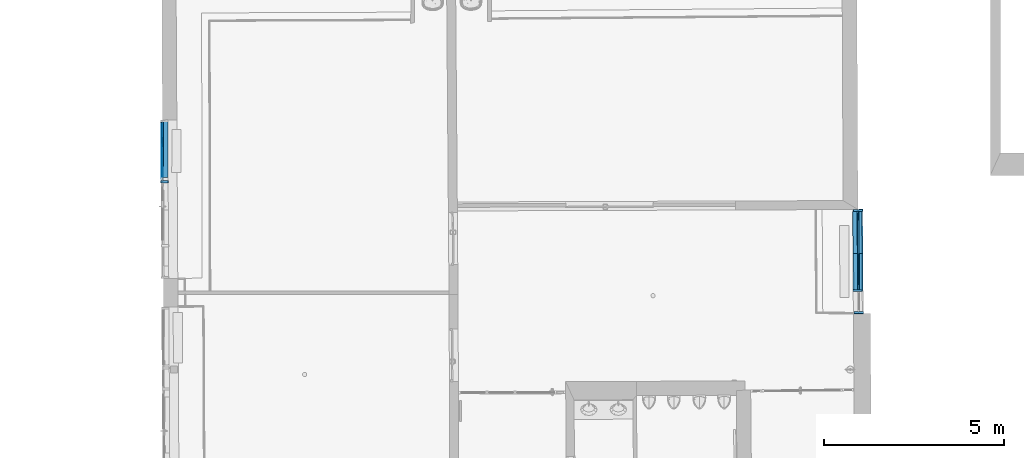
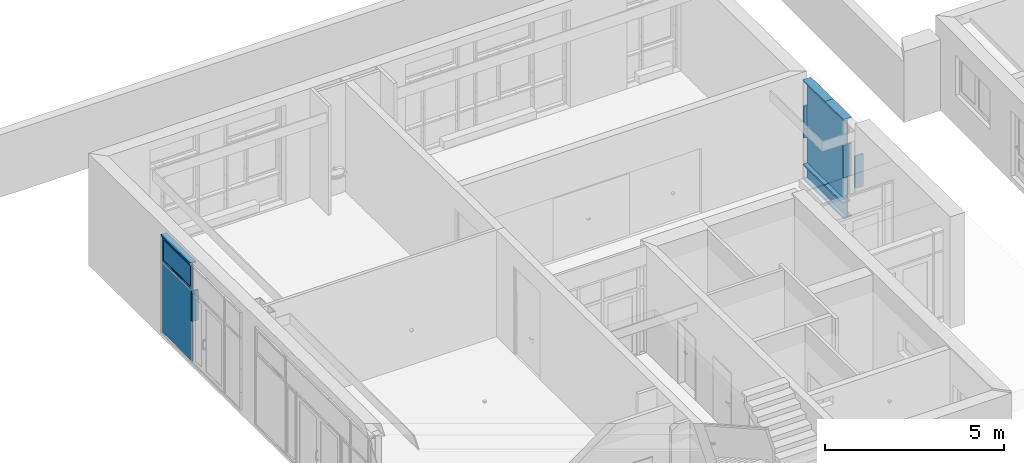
# One storey, part 128 of 196: 16 building element parts, 2 elements without a shape of their own.
"""IFC2X3 building model written with IfcOpenShell, lengths in metres."""

import ifcopenshell
import ifcopenshell.guid

model = None  # the IFC model being written
_history = None  # IfcOwnerHistory: only IFC2X3 demands one
_inside = {}  # id of a spatial element -> (the spatial element, [elements in it])
_under = {}  # id of a project, library or spatial element -> (it, [spatial elements below it])
_declared = {}  # id of a project -> (the project, [libraries it declares])
_typed = {}  # id of a type object -> (the type object, [elements of that type])
_made_of = {}  # id of a material, layer set ... -> (it, [elements and type objects made of it])


def new_model(schema):
    """Start an empty IFC model of exactly this schema.

    Asked for "IFC4X3", IfcOpenShell would pick the latest addendum, in which some entities
    have other attributes; the version numbers below select the first issue.
    IFC2X3 requires an IfcOwnerHistory on every rooted entity: one is made here for all.
    """
    global model, _history
    if schema == "IFC4X3":
        model = ifcopenshell.file(schema_version=(4, 3, 0, 0))
    else:
        model = ifcopenshell.file(schema=schema)
    _inside.clear()
    _under.clear()
    _declared.clear()
    _typed.clear()
    _made_of.clear()
    _history = None
    if model.schema == "IFC2X3":
        org = make("IfcOrganization", Name="unknown")
        user = make(
            "IfcPersonAndOrganization",
            ThePerson=make("IfcPerson", FamilyName="unknown"),
            TheOrganization=org,
        )
        app = make(
            "IfcApplication",
            ApplicationDeveloper=org,
            Version="unknown",
            ApplicationFullName="unknown",
            ApplicationIdentifier="unknown",
        )
        _history = make(
            "IfcOwnerHistory",
            OwningUser=user,
            OwningApplication=app,
            ChangeAction="ADDED",
            CreationDate=0,
        )
    return model


def make(cls, **values):
    """One entity of the class cls with the attributes given. An attribute that is None is left unset."""
    return model.create_entity(
        cls, **{name: value for name, value in values.items() if value is not None}
    )


def entity(cls, *values):
    """Any entity or typed value of the class cls, its attributes in the order of the schema. None: left unset."""
    e = model.create_entity(cls)
    for i, value in enumerate(values):
        if value is not None:
            e[i] = value
    return e


def rooted(cls, **values):
    """An entity with a GlobalId (a new one), such as an element, a storey or a relation."""
    return make(cls, GlobalId=ifcopenshell.guid.new(), OwnerHistory=_history, **values)


def si_unit(unit_type, name, prefix=None):
    """IfcSIUnit, for example si_unit("LENGTHUNIT", "METRE", prefix="MILLI")."""
    return make("IfcSIUnit", UnitType=unit_type, Prefix=prefix, Name=name)


def converted_unit(unit_type, name, factor, base, dimensions=None, offset=None):
    """IfcConversionBasedUnit, such as the inch: factor (a typed value) times the base unit."""
    return make(
        "IfcConversionBasedUnit"
        if offset is None
        else "IfcConversionBasedUnitWithOffset",
        ConversionOffset=offset,
        Dimensions=None
        if dimensions is None
        else entity("IfcDimensionalExponents", *dimensions),
        UnitType=unit_type,
        Name=name,
        ConversionFactor=make(
            "IfcMeasureWithUnit", ValueComponent=factor, UnitComponent=base
        ),
    )


def derived_unit(unit_type, elements):
    """IfcDerivedUnit: a product of units, each with its exponent."""
    return make(
        "IfcDerivedUnit",
        Elements=[
            make("IfcDerivedUnitElement", Unit=unit, Exponent=power)
            for unit, power in elements
        ],
        UnitType=unit_type,
    )


def money_unit(currency):
    """IfcMonetaryUnit."""
    return make("IfcMonetaryUnit", Currency=currency)


def assignment(units):
    """IfcUnitAssignment: the units of a project."""
    return None if units is None else make("IfcUnitAssignment", Units=units)


def point(xyz):
    """IfcCartesianPoint."""
    return None if xyz is None else make("IfcCartesianPoint", Coordinates=xyz)


def direction(xyz):
    """IfcDirection."""
    return None if xyz is None else make("IfcDirection", DirectionRatios=xyz)


def frame(location, z_axis=None, x_axis=None):
    """IfcAxis2Placement3D, a coordinate frame: its origin and axes. An axis left out is left unset."""
    return make(
        "IfcAxis2Placement3D",
        Location=point(location),
        Axis=direction(z_axis),
        RefDirection=direction(x_axis),
    )


def origin_with_axes():
    """The frame at (0, 0, 0) with the z axis (0, 0, 1) and the x axis (1, 0, 0) written out."""
    return frame((0.0, 0.0, 0.0), z_axis=(0.0, 0.0, 1.0), x_axis=(1.0, 0.0, 0.0))


def place(relative_to, where):
    """IfcLocalPlacement: puts the frame where relative to a parent placement (None: the world)."""
    return make(
        "IfcLocalPlacement", PlacementRelTo=relative_to, RelativePlacement=where
    )


def context(
    kind, dimensions, precision=None, world=None, true_north=None, identifier=None
):
    """IfcGeometricRepresentationContext, for example the 3D "Model" context."""
    return make(
        "IfcGeometricRepresentationContext",
        ContextIdentifier=identifier,
        ContextType=kind,
        CoordinateSpaceDimension=dimensions,
        Precision=precision,
        WorldCoordinateSystem=world,
        TrueNorth=true_north,
    )


def subcontext(parent, identifier, kind, view, scale=None):
    """IfcGeometricRepresentationSubContext, for example "Body" below "Model"."""
    return make(
        "IfcGeometricRepresentationSubContext",
        ContextIdentifier=identifier,
        ContextType=kind,
        ParentContext=parent,
        TargetScale=scale,
        TargetView=view,
    )


def project(units=None, contexts=None):
    """IfcProject with its units and contexts."""
    return rooted(
        "IfcProject",
        Name="project",
        RepresentationContexts=contexts,
        UnitsInContext=assignment(units),
    )


def spatial(cls, under=None, at=None, **own):
    """A site, building, storey or space (cls), placed at a placement, below another one or the project."""
    s = rooted(cls, ObjectPlacement=at, **own)
    if under is not None:
        _under.setdefault(under.id(), (under, []))[1].append(s)
    return s


def faces_of(points, faces, orient=None, outer=None):
    """IfcFace entities. A face is a list of loops; a loop is a list of indices into points, from 0.

    orient and outer hold one flag for each loop. By default every Orientation is true, the
    first loop of a face is its IfcFaceOuterBound and the others are IfcFaceBound.
    """
    made = []
    for i, loops in enumerate(faces):
        bounds = []
        for j, loop in enumerate(loops):
            is_outer = j == 0 if outer is None else outer[i][j]
            bounds.append(
                make(
                    "IfcFaceOuterBound" if is_outer else "IfcFaceBound",
                    Bound=make("IfcPolyLoop", Polygon=[points[k] for k in loop]),
                    Orientation=True if orient is None else orient[i][j],
                )
            )
        made.append(make("IfcFace", Bounds=bounds))
    return made


def faceted_brep(points, faces, orient=None, outer=None, voids=None):
    """IfcFacetedBrep: a solid bounded by flat faces; with voids (closed shells), ...WithVoids."""
    shared = [point(p) for p in points]
    hull = make("IfcClosedShell", CfsFaces=faces_of(shared, faces, orient, outer))
    if voids is None:
        return make("IfcFacetedBrep", Outer=hull)
    return make(
        "IfcFacetedBrepWithVoids",
        Outer=hull,
        Voids=[
            make(cls, CfsFaces=faces_of(shared, fs, o, b)) for cls, fs, o, b in voids
        ],
    )


def shape(context_of_items, identifier, shape_type, items):
    """IfcShapeRepresentation: the items that make up one representation, for example the "Body"."""
    return make(
        "IfcShapeRepresentation",
        ContextOfItems=context_of_items,
        RepresentationIdentifier=identifier,
        RepresentationType=shape_type,
        Items=items,
    )


def material(Name=None, Category=None):
    """IfcMaterial."""
    return make("IfcMaterial", Name=Name, Category=Category)


def made_of(thing, what):
    """Note that an element or type object is made of a material, layer set ...; save() writes the relation."""
    if what is not None:
        _made_of.setdefault(what.id(), (what, []))[1].append(thing)
    return thing


def type_object(cls, material=None, **own):
    """A type object (cls), such as IfcWallType, which elements share."""
    return made_of(rooted(cls, **own), material)


def element(
    cls,
    number,
    at=None,
    inside=None,
    cuts=None,
    type_object=None,
    material=None,
    context=None,
    identifier="Body",
    shape_type=None,
    held_by="IfcProductDefinitionShape",
    body=None,
    shapes=None,
    **own,
):
    """One element of the class cls, such as IfcWall. Its Tag is "e" and its number.

    at: its placement. inside: the storey or other place that contains it. cuts: it is an
    opening in that element (IfcRelVoidsElement). A single representation is given by context,
    identifier, shape_type and body (its items); several are given by shapes. held_by: the class
    of the entity that holds the representations. save() writes the other relations.
    """
    e = rooted(cls, Tag="e%d" % number, ObjectPlacement=at, **own)
    if body is not None:
        shapes = [shape(context, identifier, shape_type, body)]
    if shapes is not None:
        e.Representation = make(held_by, Representations=shapes)
    if inside is not None:
        _inside.setdefault(inside.id(), (inside, []))[1].append(e)
    if cuts is not None:
        rooted(
            "IfcRelVoidsElement", RelatingBuildingElement=cuts, RelatedOpeningElement=e
        )
    if type_object is not None:
        _typed.setdefault(type_object.id(), (type_object, []))[1].append(e)
    return made_of(e, material)


def aggregate(whole, parts):
    """IfcRelAggregates: a whole, such as a stair, and the parts it consists of."""
    return rooted("IfcRelAggregates", RelatingObject=whole, RelatedObjects=parts)


def save(model, path):
    """Write the relations noted so far, then the file.

    IfcRelAggregates (storeys below a building ...), IfcRelContainedInSpatialStructure (elements
    in a storey), IfcRelDefinesByType, IfcRelAssociatesMaterial and IfcRelDeclares: one each for
    every whole, place, type object, material and project.
    """
    for whole, parts in _under.values():
        aggregate(whole, parts)
    for where, things in _inside.values():
        rooted(
            "IfcRelContainedInSpatialStructure",
            RelatedElements=things,
            RelatingStructure=where,
        )
    for kind, things in _typed.values():
        rooted("IfcRelDefinesByType", RelatedObjects=things, RelatingType=kind)
    for what, things in _made_of.values():
        rooted("IfcRelAssociatesMaterial", RelatedObjects=things, RelatingMaterial=what)
    for by, libraries in _declared.values():
        rooted("IfcRelDeclares", RelatingContext=by, RelatedDefinitions=libraries)
    model.write(path)


model = new_model("IFC2X3")

# Units and contexts
model_context = context("Model", 3, precision=1e-05, world=origin_with_axes(), true_north=direction((0.0, 1.0)))
body_context = subcontext(model_context, "Body", "Model", "MODEL_VIEW")
ifc_project = project(units=[si_unit("LENGTHUNIT", "METRE"), si_unit("AREAUNIT", "SQUARE_METRE"), si_unit("VOLUMEUNIT", "CUBIC_METRE"), converted_unit("PLANEANGLEUNIT", "DEGREE", entity("IfcPlaneAngleMeasure", 0.0174532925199), si_unit("PLANEANGLEUNIT", "RADIAN"), dimensions=[0, 0, 0, 0, 0, 0, 0]), money_unit("EUR"), converted_unit("TIMEUNIT", "Year", entity("IfcTimeMeasure", 31556926.0), si_unit("TIMEUNIT", "SECOND"), dimensions=[0, 0, 1, 0, 0, 0, 0]), si_unit("MASSUNIT", "GRAM", prefix="KILO"), si_unit("THERMODYNAMICTEMPERATUREUNIT", "DEGREE_CELSIUS"), si_unit("LUMINOUSINTENSITYUNIT", "LUMEN"), si_unit("ENERGYUNIT", "JOULE", prefix="MEGA"), derived_unit("THERMALCONDUCTANCEUNIT", [(si_unit("POWERUNIT", "WATT"), 1), (si_unit("LENGTHUNIT", "METRE"), -1), (si_unit("THERMODYNAMICTEMPERATUREUNIT", "KELVIN"), -1)]), derived_unit("SPECIFICHEATCAPACITYUNIT", [(si_unit("ENERGYUNIT", "JOULE"), 1), (si_unit("MASSUNIT", "GRAM", prefix="KILO"), -1), (si_unit("THERMODYNAMICTEMPERATUREUNIT", "KELVIN"), -1)]), derived_unit("MASSDENSITYUNIT", [(si_unit("MASSUNIT", "GRAM", prefix="KILO"), 1), (si_unit("VOLUMEUNIT", "CUBIC_METRE"), -1)])], contexts=[model_context])

# Site, building, storey
site_placement = place(None, origin_with_axes())
site = spatial("IfcSite", under=ifc_project, at=site_placement, Name="Gelände", CompositionType="ELEMENT")
building_placement = place(site_placement, origin_with_axes())
building = spatial("IfcBuilding", under=site, at=building_placement, Name="Gebäude", CompositionType="ELEMENT")
storey_placement = place(building_placement, frame((0.0, 0.0, -3.0), z_axis=(0.0, 0.0, 1.0), x_axis=(1.0, 0.0, 0.0)))
storey = spatial("IfcBuildingStorey", under=building, at=storey_placement, Name="KELLERGESCHOSS", CompositionType="ELEMENT", Elevation=-3.0)

# Proxy, building element parts
building_element_proxy_type = type_object("IfcBuildingElementProxyType", Name="Fassadentyp", PredefinedType="NOTDEFINED")
proxy_1_placement = place(storey_placement, frame((-34.913387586, 47.2552574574, 0.421025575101), z_axis=(0.0, 0.0, 1.0), x_axis=(1.0, 0.0, 0.0)))
proxy_1 = element("IfcBuildingElementProxy", 1, at=proxy_1_placement, inside=storey, type_object=building_element_proxy_type, Name="Fassade-002")
ifc_material_1 = material(Name="45_Glas, Normalglas")
building_element_part_1_placement = place(proxy_1_placement, origin_with_axes())
building_element_part_1 = element("IfcBuildingElementPart", 2, at=building_element_part_1_placement, material=ifc_material_1, Name="45_Glas, Normalglas", context=body_context, shape_type="Brep", body=[
    faceted_brep([(0.0148477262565, 0.87856362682, 2.44764336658), (0.0142398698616, 0.982208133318, 2.44764336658), (-0.0257594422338, 0.981973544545, 2.44764336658), (-0.025151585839, 0.878329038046, 2.44764336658), (0.0148477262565, 0.87856362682, 1.42000002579), (0.0148477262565, 0.87856362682, 0.62000002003), (0.0148477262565, 0.87856362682, 0.0350000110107), (0.0142398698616, 0.982208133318, 0.0350000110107), (0.00504361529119, 2.55024504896, 0.0350000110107), (0.00504361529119, 2.55024504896, 0.62000002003), (0.00504361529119, 2.55024504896, 1.42000002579), (0.00504361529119, 2.55024504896, 2.44764336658), (-0.0349556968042, 2.55001046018, 2.44764336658), (-0.0349556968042, 2.55001046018, 1.42000002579), (-0.0349556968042, 2.55001046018, 0.62000002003), (-0.0349556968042, 2.55001046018, 0.0350000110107), (-0.0257594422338, 0.981973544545, 0.0350000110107), (-0.025151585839, 0.878329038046, 0.0350000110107), (-0.025151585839, 0.878329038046, 0.62000002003), (-0.025151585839, 0.878329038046, 1.42000002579)], [[[0, 1, 2, 3]], [[0, 4, 5, 6, 7, 8, 9, 10, 11, 1]], [[1, 11, 12, 2]], [[3, 2, 12, 13, 14, 15, 16, 17, 18, 19]], [[4, 0, 3, 19]], [[5, 4, 19, 18]], [[6, 5, 18, 17]], [[7, 6, 17, 16]], [[8, 7, 16, 15]], [[9, 8, 15, 14]], [[10, 9, 14, 13]], [[11, 10, 13, 12]]]),
])
ifc_material_2 = material(Name="53_Metall, Aluminium")
building_element_part_2_placement = place(proxy_1_placement, origin_with_axes())
building_element_part_2 = element("IfcBuildingElementPart", 3, at=building_element_part_2_placement, material=ifc_material_2, Name="53_Metall, Aluminium", context=body_context, shape_type="Brep", body=[
    faceted_brep([(-0.0448675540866, 2.53495207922, 2.48264338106), (-0.0352393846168, 0.893270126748, 2.48264338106), (-0.0402392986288, 0.893240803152, 2.48264338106), (-0.0498674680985, 2.53492275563, 2.48264338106), (-0.0446036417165, 2.48995285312, 2.52764338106), (-0.0355032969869, 0.938269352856, 2.52764338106), (-0.0405032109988, 0.938240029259, 2.52764338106), (-0.0496035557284, 2.48992352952, 2.52764338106)], [[[0, 1, 2, 3]], [[0, 4, 5, 1]], [[1, 5, 6, 2]], [[3, 2, 6, 7]], [[4, 0, 3, 7]], [[5, 4, 7, 6]]]),
    faceted_brep([(-0.0352393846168, 0.893270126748, 2.48264338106), (-0.0352393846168, 0.893270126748, 3.29999993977), (-0.0402392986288, 0.893240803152, 3.29999993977), (-0.0402392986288, 0.893240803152, 2.48264338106), (-0.0355032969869, 0.938269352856, 2.52764338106), (-0.0355032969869, 0.938269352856, 3.25499993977), (-0.0405032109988, 0.938240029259, 3.25499993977), (-0.0405032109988, 0.938240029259, 2.52764338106)], [[[0, 1, 2, 3]], [[0, 4, 5, 1]], [[1, 5, 6, 2]], [[3, 2, 6, 7]], [[4, 0, 3, 7]], [[5, 4, 7, 6]]]),
    faceted_brep([(-0.0448675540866, 2.53495207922, 3.29999993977), (-0.0446036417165, 2.48995285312, 3.25499993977), (-0.0496035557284, 2.48992352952, 3.25499993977), (-0.0498674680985, 2.53492275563, 3.29999993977), (-0.0352393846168, 0.893270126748, 3.29999993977), (-0.0355032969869, 0.938269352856, 3.25499993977), (-0.0405032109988, 0.938240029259, 3.25499993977), (-0.0402392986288, 0.893240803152, 3.29999993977)], [[[0, 1, 2, 3]], [[0, 4, 5, 1]], [[1, 5, 6, 2]], [[3, 2, 6, 7]], [[4, 0, 3, 7]], [[5, 4, 7, 6]]]),
    faceted_brep([(-0.0448675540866, 2.53495207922, 2.48264338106), (-0.0446036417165, 2.48995285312, 2.52764338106), (-0.0496035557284, 2.48992352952, 2.52764338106), (-0.0498674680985, 2.53492275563, 2.48264338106), (-0.0448675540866, 2.53495207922, 3.29999993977), (-0.0446036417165, 2.48995285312, 3.25499993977), (-0.0496035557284, 2.48992352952, 3.25499993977), (-0.0498674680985, 2.53492275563, 3.29999993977)], [[[0, 1, 2, 3]], [[0, 4, 5, 1]], [[1, 5, 6, 2]], [[3, 2, 6, 7]], [[4, 0, 3, 7]], [[5, 4, 7, 6]]]),
    faceted_brep([(0.00513158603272, 2.53524531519, 2.48264338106), (0.0147597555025, 0.893563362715, 2.48264338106), (-0.0352393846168, 0.893270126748, 2.48264338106), (-0.0448675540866, 2.53495207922, 2.48264338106), (0.00524888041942, 2.51524565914, 2.50264338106), (0.0146424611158, 0.913563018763, 2.50264338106), (-0.0353566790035, 0.913269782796, 2.50264338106), (-0.0447502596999, 2.51495242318, 2.50264338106)], [[[0, 1, 2, 3]], [[0, 4, 5, 1]], [[1, 5, 6, 2]], [[3, 2, 6, 7]], [[4, 0, 3, 7]], [[5, 4, 7, 6]]]),
    faceted_brep([(0.0147597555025, 0.893563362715, 2.48264338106), (0.0147597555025, 0.893563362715, 3.29999993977), (-0.0352393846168, 0.893270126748, 3.29999993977), (-0.0352393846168, 0.893270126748, 2.48264338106), (0.0146424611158, 0.913563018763, 2.50264338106), (0.0146424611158, 0.913563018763, 3.27999993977), (-0.0353566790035, 0.913269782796, 3.27999993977), (-0.0353566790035, 0.913269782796, 2.50264338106)], [[[0, 1, 2, 3]], [[0, 4, 5, 1]], [[1, 5, 6, 2]], [[3, 2, 6, 7]], [[4, 0, 3, 7]], [[5, 4, 7, 6]]]),
    faceted_brep([(0.00513158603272, 2.53524531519, 3.29999993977), (0.00524888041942, 2.51524565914, 3.27999993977), (-0.0447502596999, 2.51495242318, 3.27999993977), (-0.0448675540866, 2.53495207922, 3.29999993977), (0.0147597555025, 0.893563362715, 3.29999993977), (0.0146424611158, 0.913563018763, 3.27999993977), (-0.0353566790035, 0.913269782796, 3.27999993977), (-0.0352393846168, 0.893270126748, 3.29999993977)], [[[0, 1, 2, 3]], [[0, 4, 5, 1]], [[1, 5, 6, 2]], [[3, 2, 6, 7]], [[4, 0, 3, 7]], [[5, 4, 7, 6]]]),
    faceted_brep([(0.00513158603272, 2.53524531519, 2.48264338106), (0.00524888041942, 2.51524565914, 2.50264338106), (-0.0447502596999, 2.51495242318, 2.50264338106), (-0.0448675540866, 2.53495207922, 2.48264338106), (0.00513158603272, 2.53524531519, 3.29999993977), (0.00524888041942, 2.51524565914, 3.27999993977), (-0.0447502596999, 2.51495242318, 3.27999993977), (-0.0448675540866, 2.53495207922, 3.29999993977)], [[[0, 1, 2, 3]], [[0, 4, 5, 1]], [[1, 5, 6, 2]], [[3, 2, 6, 7]], [[4, 0, 3, 7]], [[5, 4, 7, 6]]]),
    faceted_brep([(0.0050436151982, 2.55024506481, 2.46764337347), (0.014847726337, 0.878563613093, 2.46764337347), (-0.0251515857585, 0.878329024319, 2.46764337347), (-0.0349556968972, 2.55001047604, 2.46764337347), (0.00513158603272, 2.53524531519, 2.48264338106), (0.0147597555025, 0.893563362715, 2.48264338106), (-0.025239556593, 0.893328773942, 2.48264338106), (-0.0348677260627, 2.53501072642, 2.48264338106)], [[[0, 1, 2, 3]], [[0, 4, 5, 1]], [[1, 5, 6, 2]], [[3, 2, 6, 7]], [[4, 0, 3, 7]], [[5, 4, 7, 6]]]),
    faceted_brep([(0.014847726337, 0.878563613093, 2.46764337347), (0.014847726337, 0.878563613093, 3.31499994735), (-0.0251515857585, 0.878329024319, 3.31499994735), (-0.0251515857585, 0.878329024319, 2.46764337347), (0.0147597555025, 0.893563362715, 2.48264338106), (0.0147597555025, 0.893563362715, 3.29999993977), (-0.025239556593, 0.893328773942, 3.29999993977), (-0.025239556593, 0.893328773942, 2.48264338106)], [[[0, 1, 2, 3]], [[0, 4, 5, 1]], [[1, 5, 6, 2]], [[3, 2, 6, 7]], [[4, 0, 3, 7]], [[5, 4, 7, 6]]]),
    faceted_brep([(0.014847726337, 0.878563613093, 3.31499994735), (0.0050436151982, 2.55024506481, 3.31499994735), (-0.0349556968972, 2.55001047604, 3.31499994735), (-0.0251515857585, 0.878329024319, 3.31499994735), (0.0147597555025, 0.893563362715, 3.29999993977), (0.00513158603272, 2.53524531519, 3.29999993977), (-0.0348677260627, 2.53501072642, 3.29999993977), (-0.025239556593, 0.893328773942, 3.29999993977)], [[[0, 1, 2, 3]], [[0, 4, 5, 1]], [[1, 5, 6, 2]], [[3, 2, 6, 7]], [[4, 0, 3, 7]], [[5, 4, 7, 6]]]),
    faceted_brep([(0.0050436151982, 2.55024506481, 3.31499994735), (0.0050436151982, 2.55024506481, 2.46764337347), (-0.0349556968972, 2.55001047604, 2.46764337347), (-0.0349556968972, 2.55001047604, 3.31499994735), (0.00513158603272, 2.53524531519, 3.29999993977), (0.00513158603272, 2.53524531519, 2.48264338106), (-0.0348677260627, 2.53501072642, 2.48264338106), (-0.0348677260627, 2.53501072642, 3.29999993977)], [[[0, 1, 2, 3]], [[0, 4, 5, 1]], [[1, 5, 6, 2]], [[3, 2, 6, 7]], [[4, 0, 3, 7]], [[5, 4, 7, 6]]]),
    faceted_brep([(-0.0444863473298, 2.46995319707, 2.54764338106), (0.0105127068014, 2.47027575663, 2.54764338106), (0.0105127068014, 2.47027575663, 3.23499993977), (-0.0444863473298, 2.46995319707, 3.23499993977), (-0.0447502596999, 2.51495242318, 2.50264338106), (0.0102487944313, 2.51527498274, 2.50264338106), (0.0102487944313, 2.51527498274, 3.27999993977), (-0.0447502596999, 2.51495242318, 3.27999993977)], [[[0, 1, 2, 3]], [[4, 5, 1, 0]], [[1, 5, 6, 2]], [[3, 2, 6, 7]], [[0, 3, 7, 4]], [[7, 6, 5, 4]]]),
    faceted_brep([(-0.0353566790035, 0.913269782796, 2.50264338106), (0.0196423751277, 0.913592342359, 2.50264338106), (0.0196423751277, 0.913592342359, 3.27999993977), (-0.0353566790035, 0.913269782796, 3.27999993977), (-0.0356205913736, 0.958269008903, 2.54764338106), (0.0193784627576, 0.958591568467, 2.54764338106), (0.0193784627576, 0.958591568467, 3.23499993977), (-0.0356205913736, 0.958269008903, 3.23499993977)], [[[0, 1, 2, 3]], [[4, 5, 1, 0]], [[1, 5, 6, 2]], [[3, 2, 6, 7]], [[0, 3, 7, 4]], [[7, 6, 5, 4]]]),
    faceted_brep([(-0.0353566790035, 0.913269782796, 2.50264338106), (0.0196423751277, 0.913592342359, 2.50264338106), (0.0193784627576, 0.958591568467, 2.54764338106), (-0.0356205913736, 0.958269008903, 2.54764338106), (-0.0447502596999, 2.51495242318, 2.50264338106), (0.0102487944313, 2.51527498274, 2.50264338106), (0.0105127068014, 2.47027575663, 2.54764338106), (-0.0444863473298, 2.46995319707, 2.54764338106)], [[[0, 1, 2, 3]], [[4, 5, 1, 0]], [[1, 5, 6, 2]], [[3, 2, 6, 7]], [[0, 3, 7, 4]], [[7, 6, 5, 4]]]),
    faceted_brep([(-0.0447502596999, 2.51495242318, 3.27999993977), (0.0102487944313, 2.51527498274, 3.27999993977), (0.0105127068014, 2.47027575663, 3.23499993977), (-0.0444863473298, 2.46995319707, 3.23499993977), (-0.0353566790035, 0.913269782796, 3.27999993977), (0.0196423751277, 0.913592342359, 3.27999993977), (0.0193784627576, 0.958591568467, 3.23499993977), (-0.0356205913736, 0.958269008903, 3.23499993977)], [[[0, 1, 2, 3]], [[4, 5, 1, 0]], [[1, 5, 6, 2]], [[3, 2, 6, 7]], [[0, 3, 7, 4]], [[7, 6, 5, 4]]]),
])
building_element_part_3_placement = place(proxy_1_placement, origin_with_axes())
building_element_part_3 = element("IfcBuildingElementPart", 4, at=building_element_part_3_placement, material=ifc_material_1, Name="45_Glas, Normalglas", context=body_context, shape_type="Brep", body=[
    faceted_brep([(-0.034486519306, 2.47001184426, 2.54764338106), (-0.0184867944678, 2.47010567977, 2.54764338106), (-0.00962103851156, 0.958421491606, 2.54764338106), (-0.0256207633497, 0.958327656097, 2.54764338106), (-0.034486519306, 2.47001184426, 3.23499993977), (-0.0184867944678, 2.47010567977, 3.23499993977), (-0.00962103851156, 0.958421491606, 3.23499993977), (-0.0256207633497, 0.958327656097, 3.23499993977)], [[[0, 1, 2, 3]], [[4, 5, 1, 0]], [[1, 5, 6, 2]], [[3, 2, 6, 7]], [[0, 3, 7, 4]], [[7, 6, 5, 4]]]),
])
building_element_part_4_placement = place(proxy_1_placement, origin_with_axes())
building_element_part_4 = element("IfcBuildingElementPart", 5, at=building_element_part_4_placement, material=ifc_material_2, Name="53_Metall, Aluminium", context=body_context, shape_type="Brep", body=[
    faceted_brep([(0.00424004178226, 0.98214949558, 3.31499994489), (0.00424004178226, 0.98214949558, 3.29999994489), (0.144237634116, 0.982970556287, 3.29999994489), (0.144237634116, 0.982970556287, 3.34999994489), (-0.0557589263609, 0.98179761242, 3.34999994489), (-0.0557589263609, 0.98179761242, 3.29999994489), (-0.0157596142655, 0.982032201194, 3.29999994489), (-0.0157596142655, 0.982032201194, 3.31499994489), (-0.00495621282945, 2.55018641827, 3.31499994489), (-0.00486824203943, 2.53518667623, 3.29999994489), (0.135129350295, 2.53600773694, 3.29999994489), (0.134836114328, 2.58600687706, 3.34999994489), (-0.0651604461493, 2.58483393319, 3.34999994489), (-0.0648672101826, 2.53483479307, 3.29999994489), (-0.0248678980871, 2.53506938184, 3.29999994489), (-0.0249558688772, 2.55006912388, 3.31499994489)], [[[0, 1, 2, 3, 4, 5, 6, 7]], [[0, 8, 9, 1]], [[9, 10, 2, 1]], [[2, 10, 11, 3]], [[3, 11, 12, 4]], [[4, 12, 13, 5]], [[6, 5, 13, 14]], [[14, 15, 7, 6]], [[7, 15, 8, 0]], [[8, 15, 14, 13, 12, 11, 10, 9]]]),
])
building_element_part_5_placement = place(proxy_1_placement, origin_with_axes())
building_element_part_5 = element("IfcBuildingElementPart", 6, at=building_element_part_5_placement, material=ifc_material_2, Name="53_Metall, Aluminium", context=body_context, shape_type="Brep", body=[
    faceted_brep([(0.00496519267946, 0.858505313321, 2.45764338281), (0.00505316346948, 0.843505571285, 2.45764338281), (0.145050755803, 0.844326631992, 2.45764338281), (0.144757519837, 0.894325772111, 2.45764338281), (0.00475992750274, 0.893504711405, 2.45764338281), (0.00484789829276, 0.878504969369, 2.45764338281), (-0.015151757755, 0.878387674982, 2.45764338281), (-0.015239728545, 0.893387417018, 2.45764338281), (-0.0552390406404, 0.893152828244, 2.45764338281), (-0.0549458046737, 0.843153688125, 2.45764338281), (-0.0149464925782, 0.843388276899, 2.45764338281), (-0.0150344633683, 0.858388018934, 2.45764338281), (0.00496519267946, 0.858505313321, 1.42000003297), (0.00505316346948, 0.843505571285, 1.42000003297), (0.145050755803, 0.844326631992, 1.42000003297), (0.144757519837, 0.894325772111, 1.42000003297), (0.00475992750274, 0.893504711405, 1.42000003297), (0.00484789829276, 0.878504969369, 1.42000003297), (-0.015151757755, 0.878387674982, 1.42000003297), (-0.015239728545, 0.893387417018, 1.42000003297), (-0.0552390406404, 0.893152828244, 1.42000003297), (-0.0549458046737, 0.843153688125, 1.42000003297), (-0.0149464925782, 0.843388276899, 1.42000003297), (-0.0150344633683, 0.858388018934, 1.42000003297)], [[[0, 1, 2, 3, 4, 5, 6, 7, 8, 9, 10, 11]], [[1, 0, 12, 13]], [[1, 13, 14, 2]], [[3, 2, 14, 15]], [[4, 3, 15, 16]], [[4, 16, 17, 5]], [[5, 17, 18, 6]], [[7, 6, 18, 19]], [[19, 20, 8, 7]], [[9, 8, 20, 21]], [[22, 10, 9, 21]], [[11, 10, 22, 23]], [[0, 11, 23, 12]], [[23, 22, 21, 20, 19, 18, 17, 16, 15, 14, 13, 12]]]),
])
aggregate(proxy_1, [building_element_part_1, building_element_part_2, building_element_part_3, building_element_part_4, building_element_part_5])

proxy_2_placement = place(storey_placement, frame((-15.5832344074, 44.7839609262, 0.421025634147), z_axis=(0.0, 0.0, 1.0), x_axis=(1.0, 0.0, 0.0)))
proxy_2 = element("IfcBuildingElementProxy", 7, at=proxy_2_placement, inside=storey, type_object=building_element_proxy_type, Name="Fassade-002")
building_element_part_6_placement = place(proxy_2_placement, origin_with_axes())
building_element_part_6 = element("IfcBuildingElementPart", 8, at=building_element_part_6_placement, material=ifc_material_1, Name="45_Glas, Normalglas", context=body_context, shape_type="Brep", body=[
    faceted_brep([(-0.0396222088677, 2.53497624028, 0.523501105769), (-0.0304225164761, 1.34643962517, 0.523501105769), (0.00957628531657, 1.34674923, 0.523501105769), (0.000376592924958, 2.53528584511, 0.523501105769), (-0.0396222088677, 2.53497624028, 0.03499991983), (-0.0304225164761, 1.34643962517, 0.03499991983), (-0.0225636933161, 0.331134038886, 0.0349999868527), (-0.0225636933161, 0.331134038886, 0.523501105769), (0.0174351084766, 0.331443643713, 0.523501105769), (0.0174351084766, 0.331443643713, 0.0349999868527), (0.00957628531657, 1.34674923, 0.03499991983), (0.000376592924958, 2.53528584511, 0.03499991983)], [[[0, 1, 2, 3]], [[0, 4, 5, 6, 7, 1]], [[1, 7, 8, 2]], [[3, 2, 8, 9, 10, 11]], [[4, 0, 3, 11]], [[5, 4, 11, 10]], [[6, 5, 10, 9]], [[7, 6, 9, 8]]]),
])
building_element_part_7_placement = place(proxy_2_placement, origin_with_axes())
building_element_part_7 = element("IfcBuildingElementPart", 9, at=building_element_part_7_placement, material=ifc_material_1, Name="45_Glas, Normalglas", context=body_context, shape_type="Brep", body=[
    faceted_brep([(-0.0396222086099, 2.53497620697, 3.35397438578), (-0.0304225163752, 1.34643961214, 3.35397438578), (0.00957628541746, 1.34674921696, 3.35397438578), (0.000376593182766, 2.5352858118, 3.35397438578), (-0.0396222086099, 2.53497620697, 2.51999997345), (-0.0396222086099, 2.53497620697, 1.41999996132), (-0.0396222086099, 2.53497620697, 0.619999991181), (-0.0396222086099, 2.53497620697, 0.543501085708), (-0.0304225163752, 1.34643961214, 0.543501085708), (-0.0225636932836, 0.331134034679, 0.543501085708), (-0.0225636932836, 0.331134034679, 0.619999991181), (-0.0225636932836, 0.331134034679, 1.41999996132), (-0.0225636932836, 0.331134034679, 2.51999997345), (-0.0225636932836, 0.331134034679, 3.35397438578), (0.0174351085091, 0.331443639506, 3.35397438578), (0.0174351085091, 0.331443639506, 2.51999997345), (0.0174351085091, 0.331443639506, 1.41999996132), (0.0174351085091, 0.331443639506, 0.619999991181), (0.0174351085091, 0.331443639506, 0.543501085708), (0.00957628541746, 1.34674921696, 0.543501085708), (0.000376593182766, 2.5352858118, 0.543501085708), (0.000376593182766, 2.5352858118, 0.619999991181), (0.000376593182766, 2.5352858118, 1.41999996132), (0.000376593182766, 2.5352858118, 2.51999997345)], [[[0, 1, 2, 3]], [[0, 4, 5, 6, 7, 8, 9, 10, 11, 12, 13, 1]], [[1, 13, 14, 2]], [[3, 2, 14, 15, 16, 17, 18, 19, 20, 21, 22, 23]], [[4, 0, 3, 23]], [[5, 4, 23, 22]], [[6, 5, 22, 21]], [[7, 6, 21, 20]], [[8, 7, 20, 19]], [[9, 8, 19, 18]], [[10, 9, 18, 17]], [[11, 10, 17, 16]], [[12, 11, 16, 15]], [[13, 12, 15, 14]]]),
])
building_element_part_8_placement = place(proxy_2_placement, origin_with_axes())
building_element_part_8 = element("IfcBuildingElementPart", 10, at=building_element_part_8_placement, material=ifc_material_2, Name="53_Metall, Aluminium", context=body_context, shape_type="Brep", body=[
    faceted_brep([(-0.0204228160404, 1.34651702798, 3.35397436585), (-0.0204228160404, 1.34651702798, 3.33897436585), (-0.140419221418, 1.3455882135, 3.33897436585), (-0.140419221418, 1.3455882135, 3.38897436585), (0.119572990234, 1.34760064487, 3.38897436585), (0.119572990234, 1.34760064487, 3.33897436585), (-0.000423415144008, 1.34667183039, 3.33897436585), (-0.000423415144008, 1.34667183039, 3.35397436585), (-0.0124865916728, 0.32121174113, 3.35397436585), (-0.0124865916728, 0.32121174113, 3.33897436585), (-0.132482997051, 0.32028292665, 3.33897436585), (-0.132482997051, 0.32028292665, 3.38897436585), (0.127509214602, 0.322295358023, 3.38897436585), (0.127509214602, 0.322295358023, 3.33897436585), (0.00751280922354, 0.321366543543, 3.33897436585), (0.00751280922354, 0.321366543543, 3.35397436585)], [[[0, 1, 2, 3, 4, 5, 6, 7]], [[0, 8, 9, 1]], [[9, 10, 2, 1]], [[10, 11, 3, 2]], [[11, 12, 4, 3]], [[12, 13, 5, 4]], [[6, 5, 13, 14]], [[14, 15, 7, 6]], [[7, 15, 8, 0]], [[8, 15, 14, 13, 12, 11, 10, 9]]]),
])
building_element_part_9_placement = place(proxy_2_placement, origin_with_axes())
building_element_part_9 = element("IfcBuildingElementPart", 11, at=building_element_part_9_placement, material=ifc_material_2, Name="53_Metall, Aluminium", context=body_context, shape_type="Brep", body=[
    faceted_brep([(-0.0296225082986, 2.53505362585, 0.0349999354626), (-0.0096231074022, 2.53520842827, 0.0349999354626), (-0.00950700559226, 2.52020887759, 0.0499999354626), (0.110489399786, 2.52113769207, 0.0499999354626), (0.110102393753, 2.57113619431, -6.45373545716e-08), (-0.1498898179, 2.56912376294, -6.45373545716e-08), (-0.149502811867, 2.5191252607, 0.0499999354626), (-0.0295064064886, 2.52005407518, 0.0499999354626), (-0.0204228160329, 1.34651702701, 0.0349999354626), (-0.000423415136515, 1.34667182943, 0.0349999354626), (-0.000423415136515, 1.34667182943, 0.0499999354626), (0.119572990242, 1.34760064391, 0.0499999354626), (0.119572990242, 1.34760064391, -6.45373545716e-08), (-0.140419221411, 1.34558821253, -6.45373545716e-08), (-0.140419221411, 1.34558821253, 0.0499999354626), (-0.0204228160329, 1.34651702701, 0.0499999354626)], [[[0, 1, 2, 3, 4, 5, 6, 7]], [[1, 0, 8, 9]], [[10, 2, 1, 9]], [[2, 10, 11, 3]], [[12, 4, 3, 11]], [[13, 5, 4, 12]], [[14, 6, 5, 13]], [[15, 7, 6, 14]], [[0, 7, 15, 8]], [[8, 15, 14, 13, 12, 11, 10, 9]]]),
])
building_element_part_10_placement = place(proxy_2_placement, origin_with_axes())
building_element_part_10 = element("IfcBuildingElementPart", 12, at=building_element_part_10_placement, material=ifc_material_2, Name="53_Metall, Aluminium", context=body_context, shape_type="Brep", body=[
    faceted_brep([(-0.0296225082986, 2.53505362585, 2.51999997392), (-0.00962310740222, 2.53520842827, 2.51999997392), (-0.00950700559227, 2.52020887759, 2.51999997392), (0.110489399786, 2.52113769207, 2.51999997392), (0.110102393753, 2.57113619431, 2.51999997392), (-0.1498898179, 2.56912376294, 2.51999997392), (-0.149502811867, 2.5191252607, 2.51999997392), (-0.0295064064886, 2.52005407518, 2.51999997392), (-0.0296225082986, 2.53505362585, 1.41999997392), (-0.00962310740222, 2.53520842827, 1.41999997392), (-0.00950700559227, 2.52020887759, 1.41999997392), (0.110489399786, 2.52113769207, 1.41999997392), (0.110102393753, 2.57113619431, 1.41999997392), (-0.1498898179, 2.56912376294, 1.41999997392), (-0.149502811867, 2.5191252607, 1.41999997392), (-0.0295064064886, 2.52005407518, 1.41999997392)], [[[0, 1, 2, 3, 4, 5, 6, 7]], [[1, 0, 8, 9]], [[10, 2, 1, 9]], [[2, 10, 11, 3]], [[12, 4, 3, 11]], [[13, 5, 4, 12]], [[14, 6, 5, 13]], [[15, 7, 6, 14]], [[0, 7, 15, 8]], [[8, 15, 14, 13, 12, 11, 10, 9]]]),
])
building_element_part_11_placement = place(proxy_2_placement, origin_with_axes())
building_element_part_11 = element("IfcBuildingElementPart", 13, at=building_element_part_11_placement, material=ifc_material_2, Name="53_Metall, Aluminium", context=body_context, shape_type="Brep", body=[
    faceted_brep([(-0.0295064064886, 2.52005407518, 0.5235010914), (-0.0295064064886, 2.52005407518, 0.5085010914), (-0.169502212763, 2.51897045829, 0.5085010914), (-0.169502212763, 2.51897045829, 0.5585010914), (-0.0295064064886, 2.52005407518, 0.5585010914), (-0.0295064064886, 2.52005407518, 0.5435010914), (-0.00950700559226, 2.52020887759, 0.5435010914), (-0.00950700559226, 2.52020887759, 0.5585010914), (0.0804902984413, 2.52090548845, 0.5585010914), (0.0804902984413, 2.52090548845, 0.5085010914), (-0.00950700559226, 2.52020887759, 0.5085010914), (-0.00950700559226, 2.52020887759, 0.5235010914), (-0.0204228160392, 1.34651702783, 0.5235010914), (-0.0204228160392, 1.34651702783, 0.5085010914), (-0.160418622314, 1.34543341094, 0.5085010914), (-0.160418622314, 1.34543341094, 0.5585010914), (-0.0204228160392, 1.34651702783, 0.5585010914), (-0.0204228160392, 1.34651702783, 0.5435010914), (-0.000423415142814, 1.34667183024, 0.5435010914), (-0.000423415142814, 1.34667183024, 0.5585010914), (0.0895738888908, 1.3473684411, 0.5585010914), (0.0895738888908, 1.3473684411, 0.5085010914), (-0.000423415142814, 1.34667183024, 0.5085010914), (-0.000423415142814, 1.34667183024, 0.5235010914)], [[[0, 1, 2, 3, 4, 5, 6, 7, 8, 9, 10, 11]], [[1, 0, 12, 13]], [[1, 13, 14, 2]], [[3, 2, 14, 15]], [[4, 3, 15, 16]], [[4, 16, 17, 5]], [[5, 17, 18, 6]], [[7, 6, 18, 19]], [[19, 20, 8, 7]], [[9, 8, 20, 21]], [[22, 10, 9, 21]], [[11, 10, 22, 23]], [[0, 11, 23, 12]], [[23, 22, 21, 20, 19, 18, 17, 16, 15, 14, 13, 12]]]),
])
building_element_part_12_placement = place(proxy_2_placement, origin_with_axes())
building_element_part_12 = element("IfcBuildingElementPart", 14, at=building_element_part_12_placement, material=ifc_material_2, Name="53_Metall, Aluminium", context=body_context, shape_type="Brep", body=[
    faceted_brep([(-0.00778371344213, -0.286367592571, 2.51999997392), (-0.00789981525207, -0.271368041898, 2.51999997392), (-0.12789622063, -0.272296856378, 2.51999997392), (-0.127509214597, -0.322295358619, 2.51999997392), (0.132482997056, -0.320282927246, 2.51999997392), (0.132095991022, -0.270284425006, 2.51999997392), (0.0120995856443, -0.271213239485, 2.51999997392), (0.0122156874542, -0.286212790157, 2.51999997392), (-0.00778371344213, -0.286367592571, 1.41999997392), (-0.00789981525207, -0.271368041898, 1.41999997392), (-0.12789622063, -0.272296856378, 1.41999997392), (-0.127509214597, -0.322295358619, 1.41999997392), (0.132482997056, -0.320282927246, 1.41999997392), (0.132095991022, -0.270284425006, 1.41999997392), (0.0120995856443, -0.271213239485, 1.41999997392), (0.0122156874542, -0.286212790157, 1.41999997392)], [[[0, 1, 2, 3, 4, 5, 6, 7]], [[0, 8, 9, 1]], [[9, 10, 2, 1]], [[10, 11, 3, 2]], [[11, 12, 4, 3]], [[12, 13, 5, 4]], [[6, 5, 13, 14]], [[14, 15, 7, 6]], [[7, 15, 8, 0]], [[8, 15, 14, 13, 12, 11, 10, 9]]]),
])
building_element_part_13_placement = place(proxy_2_placement, origin_with_axes())
building_element_part_13 = element("IfcBuildingElementPart", 15, at=building_element_part_13_placement, material=ifc_material_2, Name="53_Metall, Aluminium", context=body_context, shape_type="Brep", body=[
    faceted_brep([(-0.0204228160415, 1.34651702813, 0.523501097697), (-0.0204228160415, 1.34651702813, 0.508501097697), (-0.160418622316, 1.34543341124, 0.508501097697), (-0.160418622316, 1.34543341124, 0.558501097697), (-0.0204228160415, 1.34651702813, 0.558501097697), (-0.0204228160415, 1.34651702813, 0.543501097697), (-0.000423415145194, 1.34667183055, 0.543501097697), (-0.000423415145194, 1.34667183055, 0.558501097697), (0.0895738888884, 1.34736844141, 0.558501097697), (0.0895738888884, 1.34736844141, 0.508501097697), (-0.000423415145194, 1.34667183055, 0.508501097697), (-0.000423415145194, 1.34667183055, 0.523501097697), (-0.0126800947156, 0.346210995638, 0.523501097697), (-0.0126800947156, 0.346210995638, 0.508501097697), (-0.152675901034, 0.34512738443, 0.508501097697), (-0.152675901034, 0.34512738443, 0.558501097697), (-0.0126800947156, 0.346210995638, 0.558501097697), (-0.0126800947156, 0.346210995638, 0.543501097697), (0.00731930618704, 0.346365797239, 0.543501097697), (0.00731930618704, 0.346365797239, 0.558501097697), (0.0973166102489, 0.347062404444, 0.558501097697), (0.0973166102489, 0.347062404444, 0.508501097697), (0.00731930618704, 0.346365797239, 0.508501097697), (0.00731930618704, 0.346365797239, 0.523501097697)], [[[0, 1, 2, 3, 4, 5, 6, 7, 8, 9, 10, 11]], [[1, 0, 12, 13]], [[1, 13, 14, 2]], [[2, 14, 15, 3]], [[4, 3, 15, 16]], [[4, 16, 17, 5]], [[5, 17, 18, 6]], [[7, 6, 18, 19]], [[19, 20, 8, 7]], [[8, 20, 21, 9]], [[22, 10, 9, 21]], [[11, 10, 22, 23]], [[0, 11, 23, 12]], [[23, 22, 21, 20, 19, 18, 17, 16, 15, 14, 13, 12]]]),
])
building_element_part_14_placement = place(proxy_2_placement, origin_with_axes())
building_element_part_14 = element("IfcBuildingElementPart", 16, at=building_element_part_14_placement, material=ifc_material_2, Name="53_Metall, Aluminium", context=body_context, shape_type="Brep", body=[
    faceted_brep([(-0.0125639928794, 0.331211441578, 2.51999997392), (-0.0126800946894, 0.34621099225, 2.51999997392), (-0.152675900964, 0.345127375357, 2.51999997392), (-0.152288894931, 0.295128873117, 2.51999997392), (-0.0122930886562, 0.296212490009, 2.51999997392), (-0.0124091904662, 0.311212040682, 2.51999997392), (0.00759021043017, 0.311366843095, 2.51999997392), (0.00770631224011, 0.296367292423, 2.51999997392), (0.0977036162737, 0.297063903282, 2.51999997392), (0.0973166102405, 0.347062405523, 2.51999997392), (0.00731930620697, 0.346365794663, 2.51999997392), (0.00743540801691, 0.331366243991, 2.51999997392), (-0.0125639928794, 0.331211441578, 1.41999997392), (-0.0126800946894, 0.34621099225, 1.41999997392), (-0.152675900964, 0.345127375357, 1.41999997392), (-0.152288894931, 0.295128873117, 1.41999997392), (-0.0122930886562, 0.296212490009, 1.41999997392), (-0.0124091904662, 0.311212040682, 1.41999997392), (0.00759021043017, 0.311366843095, 1.41999997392), (0.00770631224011, 0.296367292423, 1.41999997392), (0.0977036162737, 0.297063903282, 1.41999997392), (0.0973166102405, 0.347062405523, 1.41999997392), (0.00731930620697, 0.346365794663, 1.41999997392), (0.00743540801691, 0.331366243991, 1.41999997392)], [[[0, 1, 2, 3, 4, 5, 6, 7, 8, 9, 10, 11]], [[1, 0, 12, 13]], [[1, 13, 14, 2]], [[3, 2, 14, 15]], [[4, 3, 15, 16]], [[4, 16, 17, 5]], [[5, 17, 18, 6]], [[7, 6, 18, 19]], [[19, 20, 8, 7]], [[9, 8, 20, 21]], [[22, 10, 9, 21]], [[11, 10, 22, 23]], [[0, 11, 23, 12]], [[23, 22, 21, 20, 19, 18, 17, 16, 15, 14, 13, 12]]]),
])
building_element_part_15_placement = place(proxy_2_placement, origin_with_axes())
building_element_part_15 = element("IfcBuildingElementPart", 17, at=building_element_part_15_placement, material=ifc_material_2, Name="53_Metall, Aluminium", context=body_context, shape_type="Brep", body=[
    faceted_brep([(-0.0204228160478, 1.34651702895, 0.034999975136), (-0.000423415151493, 1.34667183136, 0.034999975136), (-0.000423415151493, 1.34667183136, 0.049999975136), (0.119572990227, 1.34760064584, 0.049999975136), (0.119572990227, 1.34760064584, -2.48640272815e-08), (-0.140419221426, 1.34558821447, -2.48640272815e-08), (-0.140419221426, 1.34558821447, 0.049999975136), (-0.0204228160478, 1.34651702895, 0.049999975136), (-0.0124865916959, 0.321211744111, 0.034999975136), (0.00751280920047, 0.321366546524, 0.034999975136), (0.00751280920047, 0.321366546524, 0.049999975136), (0.127509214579, 0.322295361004, 0.049999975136), (0.127509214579, 0.322295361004, -2.48640272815e-08), (-0.132482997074, 0.320282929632, -2.48640272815e-08), (-0.132482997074, 0.320282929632, 0.049999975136), (-0.0124865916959, 0.321211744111, 0.049999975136)], [[[0, 1, 2, 3, 4, 5, 6, 7]], [[1, 0, 8, 9]], [[10, 2, 1, 9]], [[2, 10, 11, 3]], [[12, 4, 3, 11]], [[13, 5, 4, 12]], [[14, 6, 5, 13]], [[15, 7, 6, 14]], [[0, 7, 15, 8]], [[8, 15, 14, 13, 12, 11, 10, 9]]]),
])
building_element_part_16_placement = place(proxy_2_placement, origin_with_axes())
building_element_part_16 = element("IfcBuildingElementPart", 18, at=building_element_part_16_placement, material=ifc_material_2, Name="53_Metall, Aluminium", context=body_context, shape_type="Brep", body=[
    faceted_brep([(-0.0296225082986, 2.53505362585, 3.35397436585), (-0.0295064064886, 2.52005407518, 3.33897436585), (-0.149502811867, 2.5191252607, 3.33897436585), (-0.1498898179, 2.56912376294, 3.38897436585), (0.110102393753, 2.57113619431, 3.38897436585), (0.110489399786, 2.52113769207, 3.33897436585), (-0.00950700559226, 2.52020887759, 3.33897436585), (-0.0096231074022, 2.53520842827, 3.35397436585), (-0.0204228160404, 1.34651702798, 3.35397436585), (-0.0204228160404, 1.34651702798, 3.33897436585), (-0.140419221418, 1.3455882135, 3.33897436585), (-0.140419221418, 1.3455882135, 3.38897436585), (0.119572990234, 1.34760064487, 3.38897436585), (0.119572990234, 1.34760064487, 3.33897436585), (-0.000423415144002, 1.34667183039, 3.33897436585), (-0.000423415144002, 1.34667183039, 3.35397436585)], [[[0, 1, 2, 3, 4, 5, 6, 7]], [[0, 8, 9, 1]], [[9, 10, 2, 1]], [[10, 11, 3, 2]], [[11, 12, 4, 3]], [[12, 13, 5, 4]], [[6, 5, 13, 14]], [[14, 15, 7, 6]], [[7, 15, 8, 0]], [[8, 15, 14, 13, 12, 11, 10, 9]]]),
])
aggregate(proxy_2, [building_element_part_6, building_element_part_7, building_element_part_8, building_element_part_9, building_element_part_10, building_element_part_11, building_element_part_12, building_element_part_13, building_element_part_14, building_element_part_15, building_element_part_16])

save(model, "model.ifc")
